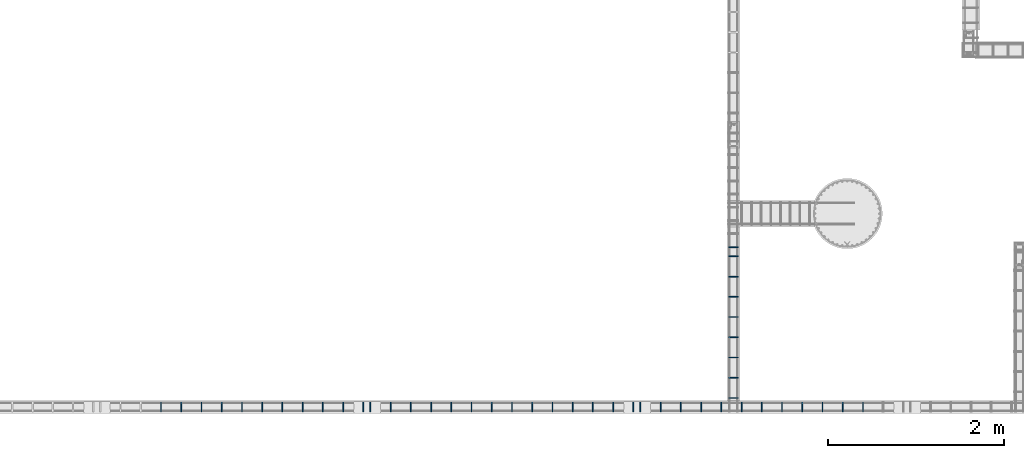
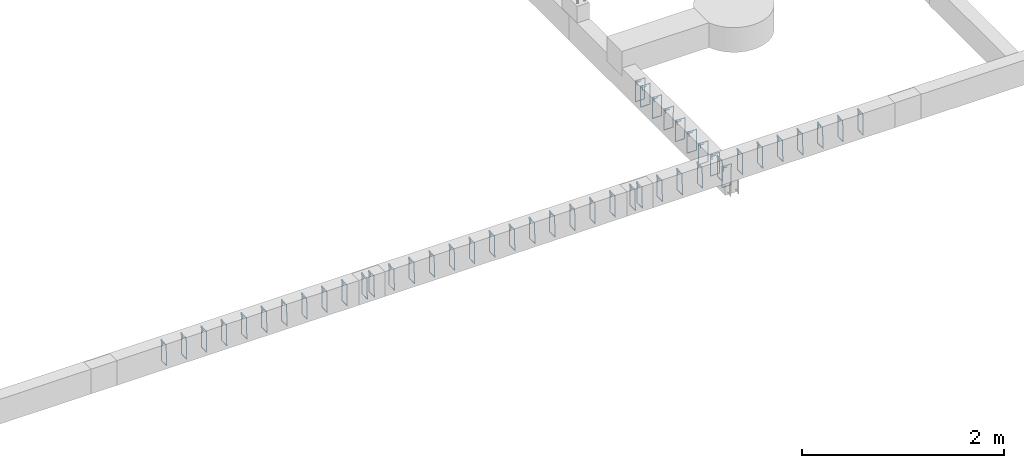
# One storey, part 38 of 150: 46 reinforcing bars.
"""IFC4 building model written with IfcOpenShell, lengths in centimetres."""

from ifc_helpers import new_model, entity, si_unit, derived_unit, frame, origin_with_axes, place, context, project, spatial, source, transform, mapped, element, save


model = new_model("IFC4")

# Units and contexts
model_context = context("Model", 3, precision=1e-05, world=origin_with_axes(), identifier="Body")
ifc_project = project(units=[si_unit("LENGTHUNIT", "METRE", prefix="CENTI"), si_unit("VOLUMEUNIT", "CUBIC_METRE"), si_unit("AREAUNIT", "SQUARE_METRE"), si_unit("POWERUNIT", "WATT"), si_unit("LUMINOUSFLUXUNIT", "LUMEN"), si_unit("ELECTRICCURRENTUNIT", "AMPERE"), si_unit("PRESSUREUNIT", "PASCAL", prefix="KILO"), si_unit("MASSUNIT", "GRAM", prefix="KILO"), si_unit("PLANEANGLEUNIT", "RADIAN"), derived_unit("VOLUMETRICFLOWRATEUNIT", [(si_unit("LENGTHUNIT", "METRE"), 3), (si_unit("TIMEUNIT", "SECOND"), -1)])], contexts=[model_context])

# Site, building, storey
site_placement = place(None, frame((-4000.0, 0.0, 0.0), z_axis=(0.0, 0.0, 1.0), x_axis=(1.0, 0.0, 0.0)))
site = spatial("IfcSite", under=ifc_project, at=site_placement, Name="PADRÃO")
building_placement = place(site_placement, frame((0.0, 0.0, -14.0)))
building = spatial("IfcBuilding", under=site, at=building_placement, Name="CRECHE PRÉ-ESCOLA TIPO 2")
placement = place(building_placement, origin_with_axes())
storey_placement = place(placement, frame((0.0, 0.0, 30.0), z_axis=(0.0, 0.0, 1.0), x_axis=(1.0, 0.0, 0.0)))
storey = spatial("IfcBuildingStorey", under=building, at=storey_placement, Name="VIGA BALDRAME", CompositionType="ELEMENT", Elevation=16.0)

# Reinforcing bars
shared_shape_1 = source(origin_with_axes(), model_context, "Body", "AdvancedSweptSolid", [
    entity("IfcSweptDiskSolid", entity("IfcCompositeCurve", [entity("IfcCompositeCurveSegment", "CONTINUOUS", True, entity("IfcPolyline", [entity("IfcCartesianPoint", [2.0, -6.0, 0.0]), entity("IfcCartesianPoint", [2.0, 0.0, 0.0])])), entity("IfcCompositeCurveSegment", "CONTINUOUS", True, entity("IfcPolyline", [entity("IfcCartesianPoint", [2.0, 0.0, 0.0]), entity("IfcCartesianPoint", [0.0, 0.0, 0.0])])), entity("IfcCompositeCurveSegment", "CONTINUOUS", True, entity("IfcPolyline", [entity("IfcCartesianPoint", [0.0, 0.0, 0.0]), entity("IfcCartesianPoint", [0.0, -25.5, 0.0])])), entity("IfcCompositeCurveSegment", "CONTINUOUS", True, entity("IfcPolyline", [entity("IfcCartesianPoint", [0.0, -25.5, 0.0]), entity("IfcCartesianPoint", [10.5, -25.5, 0.0])])), entity("IfcCompositeCurveSegment", "CONTINUOUS", True, entity("IfcPolyline", [entity("IfcCartesianPoint", [10.5, -25.5, 0.0]), entity("IfcCartesianPoint", [10.5, 0.0, 0.5])])), entity("IfcCompositeCurveSegment", "CONTINUOUS", True, entity("IfcPolyline", [entity("IfcCartesianPoint", [10.5, 0.0, 0.5]), entity("IfcCartesianPoint", [0.0, 0.0, 0.5])])), entity("IfcCompositeCurveSegment", "CONTINUOUS", True, entity("IfcPolyline", [entity("IfcCartesianPoint", [0.0, 0.0, 0.5]), entity("IfcCartesianPoint", [0.0, -2.0, 0.5])])), entity("IfcCompositeCurveSegment", "CONTINUOUS", True, entity("IfcPolyline", [entity("IfcCartesianPoint", [0.0, -2.0, 0.5]), entity("IfcCartesianPoint", [6.0, -2.0, 0.5])]))], False), 0.25),
])
for number, where, z_axis, x_axis, name in (
    (1, (1605.5, 14.75, -2.25), (-1.0, 0.0, 0.0), (0.0, -1.0, 0.0), "V158 - Estribo"),
    (2, (1628.5, 14.75, -2.25), (-1.0, 0.0, 0.0), (0.0, -1.0, 0.0), "V158 - Estribo"),
    (3, (1651.5, 14.75, -2.25), (-1.0, 0.0, 0.0), (0.0, -1.0, 0.0), "V158 - Estribo"),
    (4, (1674.5, 14.75, -2.25), (-1.0, 0.0, 0.0), (0.0, -1.0, 0.0), "V158 - Estribo"),
    (5, (1697.5, 14.75, -2.25), (-1.0, 0.0, 0.0), (0.0, -1.0, 0.0), "V158 - Estribo"),
    (6, (1720.5, 14.75, -2.25), (-1.0, 0.0, 0.0), (0.0, -1.0, 0.0), "V158 - Estribo"),
    (7, (1743.5, 14.75, -2.25), (-1.0, 0.0, 0.0), (0.0, -1.0, 0.0), "V158 - Estribo"),
    (8, (1766.5, 14.75, -2.25), (-1.0, 0.0, 0.0), (0.0, -1.0, 0.0), "V158 - Estribo"),
    (9, (1789.5, 14.75, -2.25), (-1.0, 0.0, 0.0), (0.0, -1.0, 0.0), "V158 - Estribo"),
    (10, (1812.5, 14.75, -2.25), (-1.0, 0.0, 0.0), (0.0, -1.0, 0.0), "V158 - Estribo"),
    (11, (1835.5, 14.75, -2.25), (-1.0, 0.0, 0.0), (0.0, -1.0, 0.0), "V158 - Estribo"),
):
    element("IfcReinforcingBar", number, at=place(storey_placement, frame(where, z_axis=z_axis, x_axis=x_axis)), inside=storey, Name=name, BarLength=0.0, CrossSectionArea=1.9634954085e-05, NominalDiameter=0.5, PredefinedType="MAIN", context=model_context, shape_type="MappedRepresentation", body=[
        mapped(shared_shape_1, transform((0.0, 0.0, 0.0), scale=1.0)),
    ])
shared_shape_2 = source(origin_with_axes(), model_context, "Body", "AdvancedSweptSolid", [
    entity("IfcSweptDiskSolid", entity("IfcCompositeCurve", [entity("IfcCompositeCurveSegment", "CONTINUOUS", True, entity("IfcPolyline", [entity("IfcCartesianPoint", [2.0, -6.0, 0.0]), entity("IfcCartesianPoint", [2.0, 0.0, 0.0])])), entity("IfcCompositeCurveSegment", "CONTINUOUS", True, entity("IfcPolyline", [entity("IfcCartesianPoint", [2.0, 0.0, 0.0]), entity("IfcCartesianPoint", [0.0, 0.0, 0.0])])), entity("IfcCompositeCurveSegment", "CONTINUOUS", True, entity("IfcPolyline", [entity("IfcCartesianPoint", [0.0, 0.0, 0.0]), entity("IfcCartesianPoint", [0.0, -25.5, 0.0])])), entity("IfcCompositeCurveSegment", "CONTINUOUS", True, entity("IfcPolyline", [entity("IfcCartesianPoint", [0.0, -25.5, 0.0]), entity("IfcCartesianPoint", [10.5, -25.5, 0.0])])), entity("IfcCompositeCurveSegment", "CONTINUOUS", True, entity("IfcPolyline", [entity("IfcCartesianPoint", [10.5, -25.5, 0.0]), entity("IfcCartesianPoint", [10.5, 0.0, 0.5])])), entity("IfcCompositeCurveSegment", "CONTINUOUS", True, entity("IfcPolyline", [entity("IfcCartesianPoint", [10.5, 0.0, 0.5]), entity("IfcCartesianPoint", [0.0, 0.0, 0.5])])), entity("IfcCompositeCurveSegment", "CONTINUOUS", True, entity("IfcPolyline", [entity("IfcCartesianPoint", [0.0, 0.0, 0.5]), entity("IfcCartesianPoint", [0.0, -2.0, 0.5])])), entity("IfcCompositeCurveSegment", "CONTINUOUS", True, entity("IfcPolyline", [entity("IfcCartesianPoint", [0.0, -2.0, 0.5]), entity("IfcCartesianPoint", [6.0, -2.0, 0.5])]))], False), 0.25),
])
for number, where, z_axis, x_axis, name in (
    (12, (2142.5, 14.75, -2.25), (-1.0, 0.0, 0.0), (0.0, -1.0, 0.0), "V158 - Estribo"),
    (13, (1843.5, 14.75, -2.25), (-1.0, 0.0, 0.0), (0.0, -1.0, 0.0), "V158 - Estribo"),
    (14, (1866.5, 14.75, -2.25), (-1.0, 0.0, 0.0), (0.0, -1.0, 0.0), "V158 - Estribo"),
    (15, (1889.5, 14.75, -2.25), (-1.0, 0.0, 0.0), (0.0, -1.0, 0.0), "V158 - Estribo"),
    (16, (1912.5, 14.75, -2.25), (-1.0, 0.0, 0.0), (0.0, -1.0, 0.0), "V158 - Estribo"),
    (17, (1935.5, 14.75, -2.25), (-1.0, 0.0, 0.0), (0.0, -1.0, 0.0), "V158 - Estribo"),
    (18, (1958.5, 14.75, -2.25), (-1.0, 0.0, 0.0), (0.0, -1.0, 0.0), "V158 - Estribo"),
    (19, (1981.5, 14.75, -2.25), (-1.0, 0.0, 0.0), (0.0, -1.0, 0.0), "V158 - Estribo"),
    (20, (2004.5, 14.75, -2.25), (-1.0, 0.0, 0.0), (0.0, -1.0, 0.0), "V158 - Estribo"),
    (21, (2027.5, 14.75, -2.25), (-1.0, 0.0, 0.0), (0.0, -1.0, 0.0), "V158 - Estribo"),
    (22, (2050.5, 14.75, -2.25), (-1.0, 0.0, 0.0), (0.0, -1.0, 0.0), "V158 - Estribo"),
    (23, (2073.5, 14.75, -2.25), (-1.0, 0.0, 0.0), (0.0, -1.0, 0.0), "V158 - Estribo"),
    (24, (2096.5, 14.75, -2.25), (-1.0, 0.0, 0.0), (0.0, -1.0, 0.0), "V158 - Estribo"),
    (25, (2119.5, 14.75, -2.25), (-1.0, 0.0, 0.0), (0.0, -1.0, 0.0), "V158 - Estribo"),
):
    element("IfcReinforcingBar", number, at=place(storey_placement, frame(where, z_axis=z_axis, x_axis=x_axis)), inside=storey, Name=name, BarLength=0.0, CrossSectionArea=1.9634954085e-05, NominalDiameter=0.5, PredefinedType="MAIN", context=model_context, shape_type="MappedRepresentation", body=[
        mapped(shared_shape_2, transform((0.0, 0.0, 0.0), scale=1.0)),
    ])
shared_shape_3 = source(origin_with_axes(), model_context, "Body", "AdvancedSweptSolid", [
    entity("IfcSweptDiskSolid", entity("IfcCompositeCurve", [entity("IfcCompositeCurveSegment", "CONTINUOUS", True, entity("IfcPolyline", [entity("IfcCartesianPoint", [2.0, -6.0, 0.0]), entity("IfcCartesianPoint", [2.0, 0.0, 0.0])])), entity("IfcCompositeCurveSegment", "CONTINUOUS", True, entity("IfcPolyline", [entity("IfcCartesianPoint", [2.0, 0.0, 0.0]), entity("IfcCartesianPoint", [0.0, 0.0, 0.0])])), entity("IfcCompositeCurveSegment", "CONTINUOUS", True, entity("IfcPolyline", [entity("IfcCartesianPoint", [0.0, 0.0, 0.0]), entity("IfcCartesianPoint", [0.0, -25.5, 0.0])])), entity("IfcCompositeCurveSegment", "CONTINUOUS", True, entity("IfcPolyline", [entity("IfcCartesianPoint", [0.0, -25.5, 0.0]), entity("IfcCartesianPoint", [10.5, -25.5, 0.0])])), entity("IfcCompositeCurveSegment", "CONTINUOUS", True, entity("IfcPolyline", [entity("IfcCartesianPoint", [10.5, -25.5, 0.0]), entity("IfcCartesianPoint", [10.5, 0.0, 0.5])])), entity("IfcCompositeCurveSegment", "CONTINUOUS", True, entity("IfcPolyline", [entity("IfcCartesianPoint", [10.5, 0.0, 0.5]), entity("IfcCartesianPoint", [0.0, 0.0, 0.5])])), entity("IfcCompositeCurveSegment", "CONTINUOUS", True, entity("IfcPolyline", [entity("IfcCartesianPoint", [0.0, 0.0, 0.5]), entity("IfcCartesianPoint", [0.0, -2.0, 0.5])])), entity("IfcCompositeCurveSegment", "CONTINUOUS", True, entity("IfcPolyline", [entity("IfcCartesianPoint", [0.0, -2.0, 0.5]), entity("IfcCartesianPoint", [6.0, -2.0, 0.5])]))], False), 0.25),
])
for number, where, z_axis, x_axis, name in (
    (26, (2196.5, 14.75, -2.25), (-1.0, 0.0, 0.0), (0.0, -1.0, 0.0), "V158 - Estribo"),
    (27, (2219.5, 14.75, -2.25), (-1.0, 0.0, 0.0), (0.0, -1.0, 0.0), "V158 - Estribo"),
    (28, (2242.5, 14.75, -2.25), (-1.0, 0.0, 0.0), (0.0, -1.0, 0.0), "V158 - Estribo"),
    (29, (2265.5, 14.75, -2.25), (-1.0, 0.0, 0.0), (0.0, -1.0, 0.0), "V158 - Estribo"),
    (30, (2288.5, 14.75, -2.25), (-1.0, 0.0, 0.0), (0.0, -1.0, 0.0), "V158 - Estribo"),
    (31, (2311.5, 14.75, -2.25), (-1.0, 0.0, 0.0), (0.0, -1.0, 0.0), "V158 - Estribo"),
    (32, (2334.5, 14.75, -2.25), (-1.0, 0.0, 0.0), (0.0, -1.0, 0.0), "V158 - Estribo"),
    (33, (2357.5, 14.75, -2.25), (-1.0, 0.0, 0.0), (0.0, -1.0, 0.0), "V158 - Estribo"),
    (34, (2380.5, 14.75, -2.25), (-1.0, 0.0, 0.0), (0.0, -1.0, 0.0), "V158 - Estribo"),
    (35, (2403.5, 14.75, -2.25), (-1.0, 0.0, 0.0), (0.0, -1.0, 0.0), "V158 - Estribo"),
    (36, (2173.5, 14.75, -2.25), (-1.0, 0.0, 0.0), (0.0, -1.0, 0.0), "V158 - Estribo"),
    (37, (2150.5, 14.75, -2.25), (-1.0, 0.0, 0.0), (0.0, -1.0, 0.0), "V158 - Estribo"),
):
    element("IfcReinforcingBar", number, at=place(storey_placement, frame(where, z_axis=z_axis, x_axis=x_axis)), inside=storey, Name=name, BarLength=0.0, CrossSectionArea=1.9634954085e-05, NominalDiameter=0.5, PredefinedType="MAIN", context=model_context, shape_type="MappedRepresentation", body=[
        mapped(shared_shape_3, transform((0.0, 0.0, 0.0), scale=1.0)),
    ])
shared_shape_4 = source(origin_with_axes(), model_context, "Body", "AdvancedSweptSolid", [
    entity("IfcSweptDiskSolid", entity("IfcCompositeCurve", [entity("IfcCompositeCurveSegment", "CONTINUOUS", True, entity("IfcPolyline", [entity("IfcCartesianPoint", [2.0, -6.0, 0.0]), entity("IfcCartesianPoint", [2.0, 0.0, 0.0])])), entity("IfcCompositeCurveSegment", "CONTINUOUS", True, entity("IfcPolyline", [entity("IfcCartesianPoint", [2.0, 0.0, 0.0]), entity("IfcCartesianPoint", [0.0, 0.0, 0.0])])), entity("IfcCompositeCurveSegment", "CONTINUOUS", True, entity("IfcPolyline", [entity("IfcCartesianPoint", [0.0, 0.0, 0.0]), entity("IfcCartesianPoint", [0.0, -25.5, 0.0])])), entity("IfcCompositeCurveSegment", "CONTINUOUS", True, entity("IfcPolyline", [entity("IfcCartesianPoint", [0.0, -25.5, 0.0]), entity("IfcCartesianPoint", [10.5, -25.5, 0.0])])), entity("IfcCompositeCurveSegment", "CONTINUOUS", True, entity("IfcPolyline", [entity("IfcCartesianPoint", [10.5, -25.5, 0.0]), entity("IfcCartesianPoint", [10.5, 0.0, 0.5])])), entity("IfcCompositeCurveSegment", "CONTINUOUS", True, entity("IfcPolyline", [entity("IfcCartesianPoint", [10.5, 0.0, 0.5]), entity("IfcCartesianPoint", [0.0, 0.0, 0.5])])), entity("IfcCompositeCurveSegment", "CONTINUOUS", True, entity("IfcPolyline", [entity("IfcCartesianPoint", [0.0, 0.0, 0.5]), entity("IfcCartesianPoint", [0.0, -2.0, 0.5])])), entity("IfcCompositeCurveSegment", "CONTINUOUS", True, entity("IfcPolyline", [entity("IfcCartesianPoint", [0.0, -2.0, 0.5]), entity("IfcCartesianPoint", [6.0, -2.0, 0.5])]))], False), 0.25),
])
reinforcing_bar_placement = place(storey_placement, frame((2250.73, 191.52, -22.25), z_axis=(0.0, -1.0, 0.0), x_axis=(1.0, 0.0, 0.0)))
element("IfcReinforcingBar", 38, at=reinforcing_bar_placement, inside=storey, Name="V189 - Estribo", BarLength=0.0, CrossSectionArea=1.9634954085e-05, NominalDiameter=0.5, PredefinedType="MAIN", context=model_context, shape_type="MappedRepresentation", body=[
    mapped(shared_shape_4, transform((0.0, 0.0, 0.0), scale=1.0)),
])
shared_shape_5 = source(origin_with_axes(), model_context, "Body", "AdvancedSweptSolid", [
    entity("IfcSweptDiskSolid", entity("IfcCompositeCurve", [entity("IfcCompositeCurveSegment", "CONTINUOUS", True, entity("IfcPolyline", [entity("IfcCartesianPoint", [2.0, -6.0, 0.0]), entity("IfcCartesianPoint", [2.0, 0.0, 0.0])])), entity("IfcCompositeCurveSegment", "CONTINUOUS", True, entity("IfcPolyline", [entity("IfcCartesianPoint", [2.0, 0.0, 0.0]), entity("IfcCartesianPoint", [0.0, 0.0, 0.0])])), entity("IfcCompositeCurveSegment", "CONTINUOUS", True, entity("IfcPolyline", [entity("IfcCartesianPoint", [0.0, 0.0, 0.0]), entity("IfcCartesianPoint", [0.0, -25.5, 0.0])])), entity("IfcCompositeCurveSegment", "CONTINUOUS", True, entity("IfcPolyline", [entity("IfcCartesianPoint", [0.0, -25.5, 0.0]), entity("IfcCartesianPoint", [10.5, -25.5, 0.0])])), entity("IfcCompositeCurveSegment", "CONTINUOUS", True, entity("IfcPolyline", [entity("IfcCartesianPoint", [10.5, -25.5, 0.0]), entity("IfcCartesianPoint", [10.5, 0.0, 0.5])])), entity("IfcCompositeCurveSegment", "CONTINUOUS", True, entity("IfcPolyline", [entity("IfcCartesianPoint", [10.5, 0.0, 0.5]), entity("IfcCartesianPoint", [0.0, 0.0, 0.5])])), entity("IfcCompositeCurveSegment", "CONTINUOUS", True, entity("IfcPolyline", [entity("IfcCartesianPoint", [0.0, 0.0, 0.5]), entity("IfcCartesianPoint", [0.0, -2.0, 0.5])])), entity("IfcCompositeCurveSegment", "CONTINUOUS", True, entity("IfcPolyline", [entity("IfcCartesianPoint", [0.0, -2.0, 0.5]), entity("IfcCartesianPoint", [6.0, -2.0, 0.5])]))], False), 0.25),
])
for number, where, z_axis, x_axis, name in (
    (39, (2250.73, 20.01, -22.25), (0.0, -1.0, 0.0), (1.0, 0.0, 0.0), "V189 - Estribo"),
    (40, (2250.73, 43.01, -22.25), (0.0, -1.0, 0.0), (1.0, 0.0, 0.0), "V189 - Estribo"),
    (41, (2250.73, 66.01, -22.25), (0.0, -1.0, 0.0), (1.0, 0.0, 0.0), "V189 - Estribo"),
    (42, (2250.73, 89.01, -22.25), (0.0, -1.0, 0.0), (1.0, 0.0, 0.0), "V189 - Estribo"),
    (43, (2250.73, 112.01, -22.25), (0.0, -1.0, 0.0), (1.0, 0.0, 0.0), "V189 - Estribo"),
    (44, (2250.73, 135.01, -22.25), (0.0, -1.0, 0.0), (1.0, 0.0, 0.0), "V189 - Estribo"),
    (45, (2250.73, 181.01, -22.25), (0.0, -1.0, 0.0), (1.0, 0.0, 0.0), "V189 - Estribo"),
    (46, (2250.73, 158.01, -22.25), (0.0, -1.0, 0.0), (1.0, 0.0, 0.0), "V189 - Estribo"),
):
    element("IfcReinforcingBar", number, at=place(storey_placement, frame(where, z_axis=z_axis, x_axis=x_axis)), inside=storey, Name=name, BarLength=0.0, CrossSectionArea=1.9634954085e-05, NominalDiameter=0.5, PredefinedType="MAIN", context=model_context, shape_type="MappedRepresentation", body=[
        mapped(shared_shape_5, transform((0.0, 0.0, 0.0), scale=1.0)),
    ])

save(model, "model.ifc")
